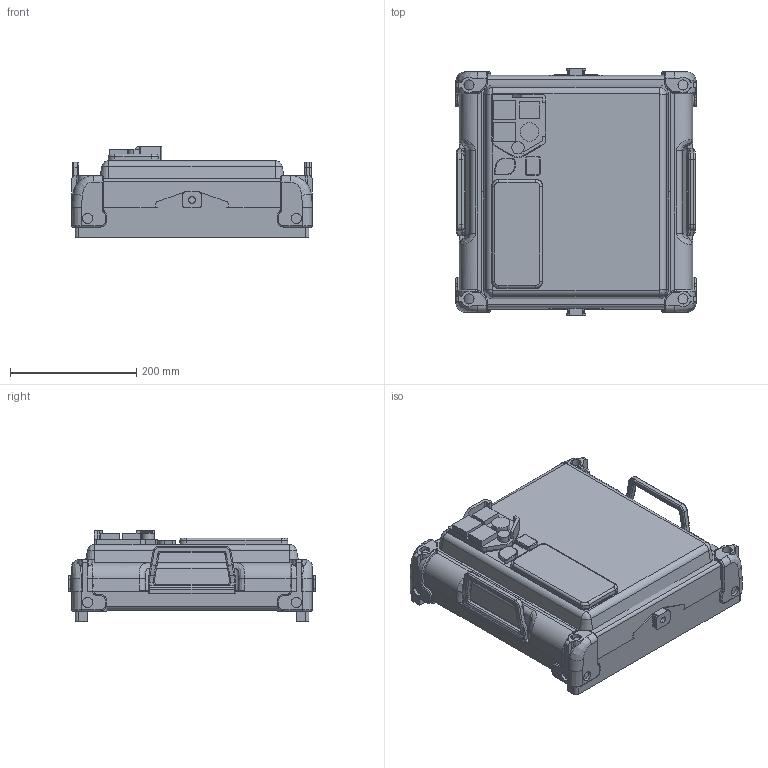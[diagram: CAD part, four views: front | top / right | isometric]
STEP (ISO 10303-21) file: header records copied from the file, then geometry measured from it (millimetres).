
FILE_DESCRIPTION((''),'2;1');
FILE_NAME('V4_SIMPLIFY_YOKE_TOWARD_BACK','2022-02-09T14:16:10',('Evan'),(''),'CREO PARAMETRIC BY PTC INC, 2019010','CREO PARAMETRIC BY PTC INC, 2019010','');
FILE_SCHEMA(('CONFIG_CONTROL_DESIGN'));
Length unit declared in the file: millimetre
Products named in the file (1): V4_SIMPLIFY_YOKE_TOWARD_BACK
Bounding box: 380.04 x 390 x 143.6 mm (x, y, z)
Volume: 13183142 mm3; surface area: 590772.1 mm2
Topology: 1 solids, 1 shells, 836 faces, 2149 edges, 1329 vertices
Faces by surface type: cylinder 328, plane 253, torus 113, bspline 112, cone 22, extrusion 8
Entity records: 30100 total; most frequent: CARTESIAN_POINT 10337, ORIENTED_EDGE 4298, DIRECTION 3993, EDGE_CURVE 2149, AXIS2_PLACEMENT_3D 1510, VERTEX_POINT 1329, VECTOR 973, LINE 965
